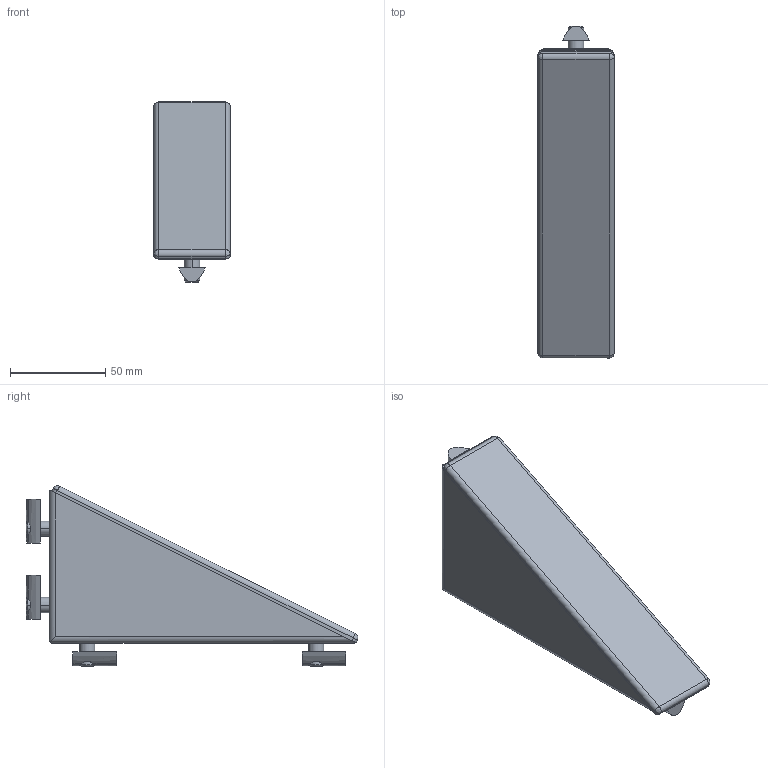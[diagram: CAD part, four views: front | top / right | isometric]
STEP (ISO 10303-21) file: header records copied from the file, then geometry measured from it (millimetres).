
FILE_DESCRIPTION (( 'STEP AP203' ), '1' );
FILE_NAME ('0108W16080ZNSZ.STEP', '2024-03-12T15:05:59', ( 'Windows-Benutzer' ), ( '' ), 'SwSTEP 2.0', 'SolidWorks 2023', '' );
FILE_SCHEMA (( 'CONFIG_CONTROL_DESIGN' ));
Length unit declared in the file: millimetre
Products named in the file (1): 0108W16080ZNSZ
Bounding box: 40 x 173.78 x 94.43 mm (x, y, z)
Volume: 117017.6 mm3; surface area: 69786.7 mm2
Topology: 14 solids, 14 shells, 243 faces, 588 edges, 380 vertices
Faces by surface type: plane 121, cylinder 94, bspline 20, cone 8
Entity records: 8029 total; most frequent: CARTESIAN_POINT 2274, DIRECTION 1174, ORIENTED_EDGE 1168, EDGE_CURVE 584, AXIS2_PLACEMENT_3D 420, VERTEX_POINT 380, LINE 334, VECTOR 334
